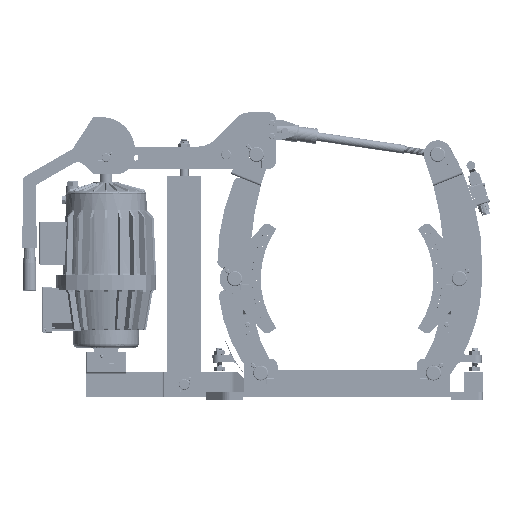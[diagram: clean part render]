
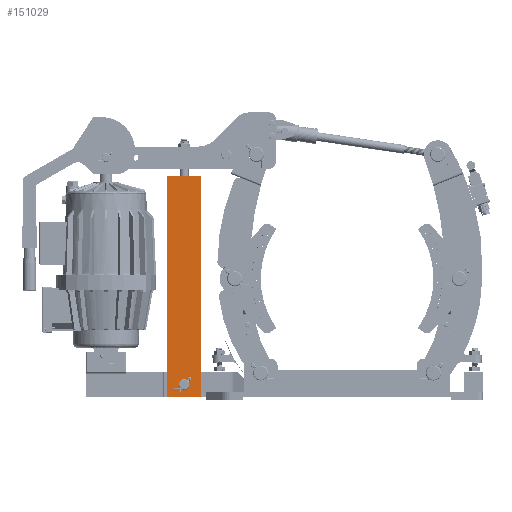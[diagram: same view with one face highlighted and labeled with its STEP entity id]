
A CAD part, left-side view. The second image highlights one B-rep face of the part: STEP entity #151029.
In plain terms, the highlighted planar face has unit normal (-1, 0, 0).
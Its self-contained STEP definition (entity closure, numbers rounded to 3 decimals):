
#150868=DIRECTION('',(0.,-1.,0.));
#150869=VECTOR('',#150868,80.);
#150870=CARTESIAN_POINT('',(-115.,731.046,517.5));
#150871=LINE('',#150870,#150869);
#150875=DIRECTION('',(0.,0.,-1.));
#150876=VECTOR('',#150875,512.5);
#150877=CARTESIAN_POINT('',(-115.,651.046,517.5));
#150878=LINE('',#150877,#150876);
#150882=DIRECTION('',(0.,1.,0.));
#150883=VECTOR('',#150882,80.);
#150884=CARTESIAN_POINT('',(-115.,651.046,5.));
#150885=LINE('',#150884,#150883);
#150889=DIRECTION('',(0.,0.,1.));
#150890=VECTOR('',#150889,512.5);
#150891=CARTESIAN_POINT('',(-115.,731.046,5.));
#150892=LINE('',#150891,#150890);
#150896=CARTESIAN_POINT('',(-115.,678.5,35.));
#150897=CARTESIAN_POINT('',(-115.,678.5,35.386));
#150898=CARTESIAN_POINT('',(-115.,678.536,36.155));
#150899=CARTESIAN_POINT('',(-115.,678.695,37.301));
#150900=CARTESIAN_POINT('',(-115.,678.96,38.426));
#150901=CARTESIAN_POINT('',(-115.,679.327,39.521));
#150902=CARTESIAN_POINT('',(-115.,679.795,40.581));
#150903=CARTESIAN_POINT('',(-115.,680.358,41.591));
#150904=CARTESIAN_POINT('',(-115.,681.012,42.546));
#150905=CARTESIAN_POINT('',(-115.,681.751,43.435));
#150906=CARTESIAN_POINT('',(-115.,682.569,44.252));
#150907=CARTESIAN_POINT('',(-115.,683.458,44.991));
#150908=CARTESIAN_POINT('',(-115.,684.412,45.644));
#150909=CARTESIAN_POINT('',(-115.,685.422,46.206));
#150910=CARTESIAN_POINT('',(-115.,686.48,46.673));
#150911=CARTESIAN_POINT('',(-115.,687.575,47.04));
#150912=CARTESIAN_POINT('',(-115.,688.699,47.305));
#150913=CARTESIAN_POINT('',(-115.,689.845,47.464));
#150914=CARTESIAN_POINT('',(-115.,690.614,47.5));
#150915=CARTESIAN_POINT('',(-115.,691.,47.5));
#150920=CARTESIAN_POINT('',(-115.,691.,47.5));
#150921=CARTESIAN_POINT('',(-115.,691.386,47.5));
#150922=CARTESIAN_POINT('',(-115.,692.155,47.464));
#150923=CARTESIAN_POINT('',(-115.,693.301,47.305));
#150924=CARTESIAN_POINT('',(-115.,694.426,47.04));
#150925=CARTESIAN_POINT('',(-115.,695.521,46.673));
#150926=CARTESIAN_POINT('',(-115.,696.581,46.205));
#150927=CARTESIAN_POINT('',(-115.,697.591,45.642));
#150928=CARTESIAN_POINT('',(-115.,698.546,44.988));
#150929=CARTESIAN_POINT('',(-115.,699.435,44.249));
#150930=CARTESIAN_POINT('',(-115.,700.252,43.431));
#150931=CARTESIAN_POINT('',(-115.,700.991,42.542));
#150932=CARTESIAN_POINT('',(-115.,701.644,41.588));
#150933=CARTESIAN_POINT('',(-115.,702.206,40.578));
#150934=CARTESIAN_POINT('',(-115.,702.673,39.52));
#150935=CARTESIAN_POINT('',(-115.,703.04,38.425));
#150936=CARTESIAN_POINT('',(-115.,703.305,37.301));
#150937=CARTESIAN_POINT('',(-115.,703.464,36.155));
#150938=CARTESIAN_POINT('',(-115.,703.5,35.386));
#150939=CARTESIAN_POINT('',(-115.,703.5,35.));
#150944=CARTESIAN_POINT('',(-115.,703.5,35.));
#150945=CARTESIAN_POINT('',(-115.,703.5,34.614));
#150946=CARTESIAN_POINT('',(-115.,703.464,33.845));
#150947=CARTESIAN_POINT('',(-115.,703.305,32.699));
#150948=CARTESIAN_POINT('',(-115.,703.04,31.574));
#150949=CARTESIAN_POINT('',(-115.,702.673,30.479));
#150950=CARTESIAN_POINT('',(-115.,702.205,29.419));
#150951=CARTESIAN_POINT('',(-115.,701.642,28.409));
#150952=CARTESIAN_POINT('',(-115.,700.988,27.454));
#150953=CARTESIAN_POINT('',(-115.,700.249,26.565));
#150954=CARTESIAN_POINT('',(-115.,699.431,25.748));
#150955=CARTESIAN_POINT('',(-115.,698.542,25.009));
#150956=CARTESIAN_POINT('',(-115.,697.588,24.356));
#150957=CARTESIAN_POINT('',(-115.,696.578,23.794));
#150958=CARTESIAN_POINT('',(-115.,695.52,23.327));
#150959=CARTESIAN_POINT('',(-115.,694.425,22.96));
#150960=CARTESIAN_POINT('',(-115.,693.301,22.695));
#150961=CARTESIAN_POINT('',(-115.,692.155,22.536));
#150962=CARTESIAN_POINT('',(-115.,691.386,22.5));
#150963=CARTESIAN_POINT('',(-115.,691.,22.5));
#150968=CARTESIAN_POINT('',(-115.,691.,22.5));
#150969=CARTESIAN_POINT('',(-115.,690.614,22.5));
#150970=CARTESIAN_POINT('',(-115.,689.845,22.536));
#150971=CARTESIAN_POINT('',(-115.,688.699,22.695));
#150972=CARTESIAN_POINT('',(-115.,687.574,22.96));
#150973=CARTESIAN_POINT('',(-115.,686.479,23.327));
#150974=CARTESIAN_POINT('',(-115.,685.419,23.795));
#150975=CARTESIAN_POINT('',(-115.,684.409,24.358));
#150976=CARTESIAN_POINT('',(-115.,683.454,25.012));
#150977=CARTESIAN_POINT('',(-115.,682.565,25.751));
#150978=CARTESIAN_POINT('',(-115.,681.748,26.569));
#150979=CARTESIAN_POINT('',(-115.,681.009,27.458));
#150980=CARTESIAN_POINT('',(-115.,680.356,28.412));
#150981=CARTESIAN_POINT('',(-115.,679.794,29.422));
#150982=CARTESIAN_POINT('',(-115.,679.327,30.48));
#150983=CARTESIAN_POINT('',(-115.,678.96,31.575));
#150984=CARTESIAN_POINT('',(-115.,678.695,32.699));
#150985=CARTESIAN_POINT('',(-115.,678.536,33.845));
#150986=CARTESIAN_POINT('',(-115.,678.5,34.614));
#150987=CARTESIAN_POINT('',(-115.,678.5,35.));
#150992=CARTESIAN_POINT('',(-115.,731.046,517.5));
#150993=CARTESIAN_POINT('',(-115.,651.046,517.5));
#150994=VERTEX_POINT('',#150992);
#150995=VERTEX_POINT('',#150993);
#150996=CARTESIAN_POINT('',(-115.,651.046,5.));
#150997=VERTEX_POINT('',#150996);
#150998=CARTESIAN_POINT('',(-115.,731.046,5.));
#150999=VERTEX_POINT('',#150998);
#151000=VERTEX_POINT('',#150896);
#151001=VERTEX_POINT('',#150915);
#151002=VERTEX_POINT('',#150939);
#151003=VERTEX_POINT('',#150963);
#151004=CARTESIAN_POINT('',(-115.,691.046,261.25));
#151005=DIRECTION('',(1.,0.,0.));
#151006=DIRECTION('',(0.,0.,-1.));
#151007=AXIS2_PLACEMENT_3D('',#151004,#151005,#151006);
#151008=PLANE('',#151007);
#151010=ORIENTED_EDGE('',*,*,#151009,.T.);
#151012=ORIENTED_EDGE('',*,*,#151011,.T.);
#151014=ORIENTED_EDGE('',*,*,#151013,.T.);
#151016=ORIENTED_EDGE('',*,*,#151015,.T.);
#151017=EDGE_LOOP('',(#151010,#151012,#151014,#151016));
#151018=FACE_OUTER_BOUND('',#151017,.F.);
#151020=ORIENTED_EDGE('',*,*,#151019,.T.);
#151022=ORIENTED_EDGE('',*,*,#151021,.T.);
#151024=ORIENTED_EDGE('',*,*,#151023,.T.);
#151026=ORIENTED_EDGE('',*,*,#151025,.T.);
#151027=EDGE_LOOP('',(#151020,#151022,#151024,#151026));
#151028=FACE_BOUND('',#151027,.F.);
#151029=ADVANCED_FACE('',(#151018,#151028),#151008,.F.);
#150916=B_SPLINE_CURVE_WITH_KNOTS('',3,(#150896,#150897,#150898,#150899,#150900,
#150901,#150902,#150903,#150904,#150905,#150906,#150907,#150908,#150909,#150910,
#150911,#150912,#150913,#150914,#150915),.UNSPECIFIED.,.F.,.F.,(4,1,1,1,1,1,1,1,
1,1,1,1,1,1,1,1,1,4),(0.,0.059,0.118,
0.176,0.235,0.294,0.353,
0.412,0.471,0.529,0.588,
0.647,0.706,0.765,0.824,
0.882,0.941,1.),.UNSPECIFIED.);
#150940=B_SPLINE_CURVE_WITH_KNOTS('',3,(#150920,#150921,#150922,#150923,#150924,
#150925,#150926,#150927,#150928,#150929,#150930,#150931,#150932,#150933,#150934,
#150935,#150936,#150937,#150938,#150939),.UNSPECIFIED.,.F.,.F.,(4,1,1,1,1,1,1,1,
1,1,1,1,1,1,1,1,1,4),(0.,0.059,0.118,
0.176,0.235,0.294,0.353,
0.412,0.471,0.529,0.588,
0.647,0.706,0.765,0.824,
0.882,0.941,1.),.UNSPECIFIED.);
#150964=B_SPLINE_CURVE_WITH_KNOTS('',3,(#150944,#150945,#150946,#150947,#150948,
#150949,#150950,#150951,#150952,#150953,#150954,#150955,#150956,#150957,#150958,
#150959,#150960,#150961,#150962,#150963),.UNSPECIFIED.,.F.,.F.,(4,1,1,1,1,1,1,1,
1,1,1,1,1,1,1,1,1,4),(0.,0.059,0.118,
0.176,0.235,0.294,0.353,
0.412,0.471,0.529,0.588,
0.647,0.706,0.765,0.824,
0.882,0.941,1.),.UNSPECIFIED.);
#150988=B_SPLINE_CURVE_WITH_KNOTS('',3,(#150968,#150969,#150970,#150971,#150972,
#150973,#150974,#150975,#150976,#150977,#150978,#150979,#150980,#150981,#150982,
#150983,#150984,#150985,#150986,#150987),.UNSPECIFIED.,.F.,.F.,(4,1,1,1,1,1,1,1,
1,1,1,1,1,1,1,1,1,4),(0.,0.059,0.118,
0.176,0.235,0.294,0.353,
0.412,0.471,0.529,0.588,
0.647,0.706,0.765,0.824,
0.882,0.941,1.),.UNSPECIFIED.);
#151009=EDGE_CURVE('',#150994,#150995,#150871,.T.);
#151011=EDGE_CURVE('',#150995,#150997,#150878,.T.);
#151013=EDGE_CURVE('',#150997,#150999,#150885,.T.);
#151015=EDGE_CURVE('',#150999,#150994,#150892,.T.);
#151019=EDGE_CURVE('',#151000,#151001,#150916,.T.);
#151021=EDGE_CURVE('',#151001,#151002,#150940,.T.);
#151023=EDGE_CURVE('',#151002,#151003,#150964,.T.);
#151025=EDGE_CURVE('',#151003,#151000,#150988,.T.);
